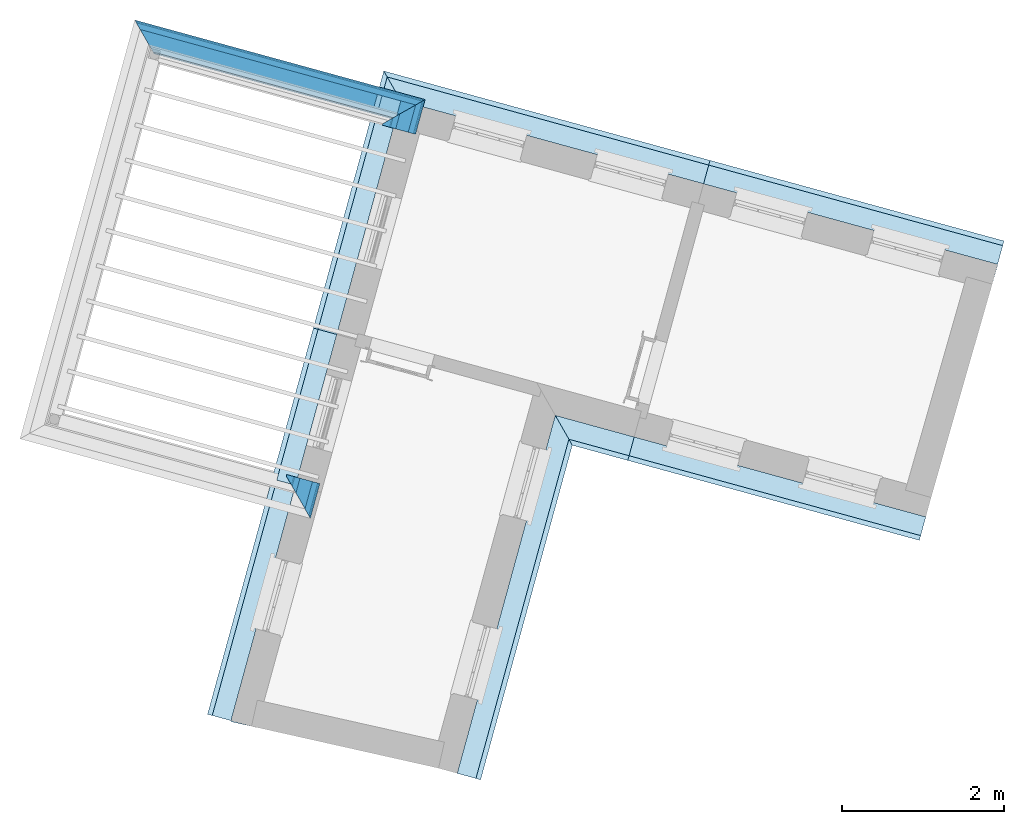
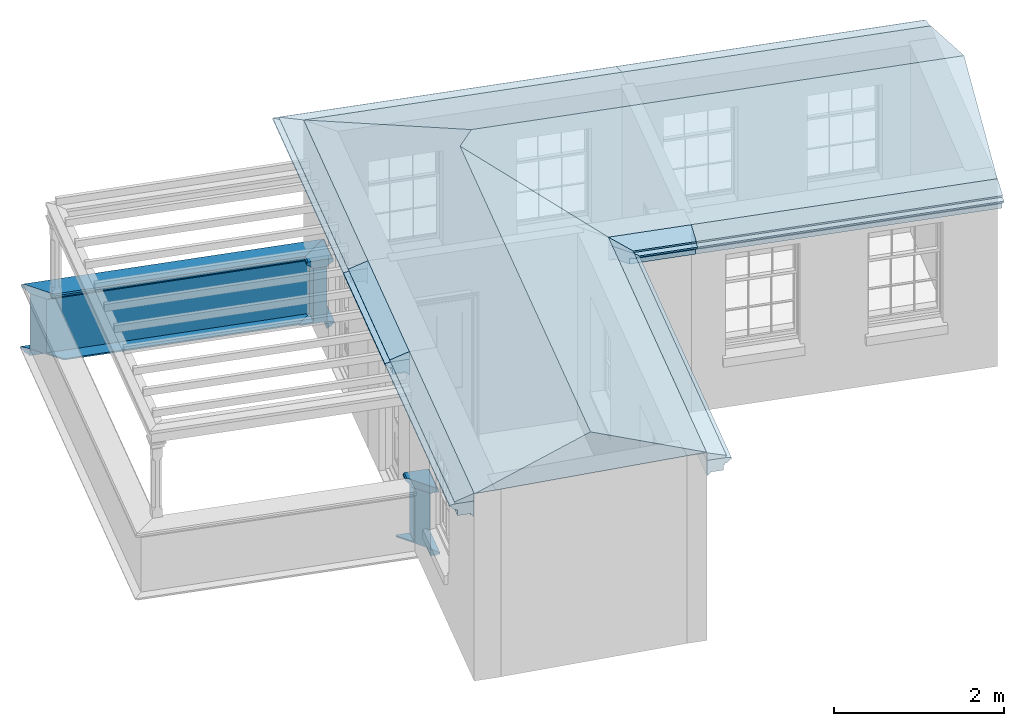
# One storey, part 5 of 5: 17 roofs, 9 walls.
"""IFC4 building model written with IfcOpenShell, lengths in metres."""

from ifc_helpers import new_model, si_unit, frame, origin, origin_with_axes, place, context, subcontext, project, spatial, polyline, outline, extrude, boolean, clip, halfspace, faceted_brep, material_profile, profile_set, profile_usage, type_object, element, save


model = new_model("IFC4")

# Units and contexts
model_context = context("Model", 3, world=origin_with_axes())
body_context = subcontext(model_context, "Body", "Model", "MODEL_VIEW")
ifc_project = project(units=[si_unit("PLANEANGLEUNIT", "RADIAN"), si_unit("MASSUNIT", "GRAM", prefix="KILO"), si_unit("FORCEUNIT", "NEWTON", prefix="KILO"), si_unit("LENGTHUNIT", "METRE"), si_unit("AREAUNIT", "SQUARE_METRE"), si_unit("VOLUMEUNIT", "CUBIC_METRE")], contexts=[model_context, model_context])

# Sites, building, storey
site_1_placement = place(None, origin_with_axes())
site_1 = spatial("IfcSite", under=ifc_project, at=site_1_placement, Name="Tamar")
site_2_placement = place(site_1_placement, origin_with_axes())
site_2 = spatial("IfcSite", under=site_1, at=site_2_placement, Name="Site plot-29", CompositionType="ELEMENT")
building_placement = place(None, origin_with_axes())
building = spatial("IfcBuilding", under=site_2, at=building_placement, Name="Building plot-29", CompositionType="ELEMENT")
storey_placement = place(None, frame((0.0, 0.0, 30.55), z_axis=(0.0, 0.0, 1.0), x_axis=(1.0, 0.0, 0.0)))
storey = spatial("IfcBuildingStorey", under=building, at=storey_placement, Name="plot-29 2", CompositionType="ELEMENT", Elevation=30.55)

# Walls
ifc_material_profile_1 = material_profile(None, outline(polyline([(0.25, 0.0), (0.25, 0.795), (0.09, 0.795), (0.09, 0.02), (-0.08, 0.02), (-0.08, 0.0), (0.25, 0.0)])))
ifc_profile_set_1 = profile_set([ifc_material_profile_1])
ifc_profile_usage_1 = profile_usage(ifc_profile_set_1)
wall_type_1 = type_object("IfcWallType", Name="parapet_0", PredefinedType="PARAPET", material=ifc_profile_set_1)
wall_1_placement = place(storey_placement, frame((274.250600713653, 266.220060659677, 0.0), z_axis=(-0.264255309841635, -0.964452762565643, 0.0), x_axis=(0.964452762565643, -0.264255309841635, 0.0)))
element("IfcWall", 1, at=wall_1_placement, inside=storey, type_object=wall_type_1, material=ifc_profile_usage_1, Name="parapet_0", context=body_context, shape_type="Clipping", body=[
    clip(clip(extrude(outline(polyline([(0.25, 0.0), (0.25, 0.795), (0.09, 0.795), (0.09, 0.02), (-0.08, 0.02), (-0.08, 0.0), (0.25, 0.0)])), origin_with_axes(), (0.0, 0.0, 1.0), 2.10000000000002), halfspace(frame((0.0, 0.0, 1.10000000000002), z_axis=(5.26783817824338e-15, 0.0, -1.0), x_axis=(0.0, 1.0, 0.0)), True)), halfspace(frame((0.0, 0.0, 1.0), z_axis=(-0.707106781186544, 0.0, -0.707106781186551), x_axis=(0.0, 1.0, 0.0)), False)),
])
ifc_profile_usage_2 = profile_usage(ifc_profile_set_1)
wall_2_placement = place(storey_placement, frame((270.103851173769, 266.319392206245, 0.0), z_axis=(0.96445276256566, -0.264255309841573, 0.0), x_axis=(0.264255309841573, 0.96445276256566, 0.0)))
element("IfcWall", 2, at=wall_2_placement, inside=storey, type_object=wall_type_1, material=ifc_profile_usage_2, Name="parapet_0", context=body_context, shape_type="Clipping", body=[
    clip(clip(extrude(outline(polyline([(0.25, 0.0), (0.25, 0.795), (0.09, 0.795), (0.09, 0.02), (-0.08, 0.02), (-0.08, 0.0), (0.25, 0.0)])), origin_with_axes(), (0.0, 0.0, 1.0), 5.02559293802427), halfspace(frame((0.0, 0.0, 4.02559293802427), z_axis=(0.707106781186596, 0.0, -0.707106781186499), x_axis=(0.0, 1.0, 0.0)), True)), halfspace(frame((0.0, 0.0, 1.0), z_axis=(-0.707106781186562, 0.0, -0.707106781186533), x_axis=(0.0, 1.0, 0.0)), False)),
])
ifc_profile_usage_3 = profile_usage(ifc_profile_set_1)
wall_3_placement = place(storey_placement, frame((273.04320591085, 261.813431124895, 0.0), z_axis=(-0.264255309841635, -0.964452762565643, 0.0), x_axis=(0.964452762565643, -0.264255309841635, 0.0)))
element("IfcWall", 3, at=wall_3_placement, inside=storey, type_object=wall_type_1, material=ifc_profile_usage_3, Name="parapet_0", context=body_context, shape_type="Clipping", body=[
    clip(clip(extrude(outline(polyline([(0.25, 0.0), (0.25, 0.795), (0.09, 0.795), (0.09, 0.02), (-0.08, 0.02), (-0.08, 0.0), (0.25, 0.0)])), origin_with_axes(), (0.0, 0.0, 1.0), 2.10000000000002), halfspace(frame((0.0, 0.0, 1.10000000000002), z_axis=(0.707106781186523, 0.0, -0.707106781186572), x_axis=(0.0, 1.0, 0.0)), True)), halfspace(frame((0.0, 0.0, 1.0), z_axis=(5.26783817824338e-15, 0.0, -1.0), x_axis=(0.0, 1.0, 0.0)), False)),
])
ifc_material_profile_2 = material_profile(None, outline(polyline([(0.265, 0.795), (0.268, 0.807), (0.274, 0.816), (0.283, 0.822), (0.295, 0.825), (0.295, 0.84), (0.305, 0.84), (0.317, 0.842), (0.326, 0.849), (0.333, 0.858), (0.335, 0.87), (0.333, 0.882), (0.326, 0.891), (0.317, 0.898), (0.305, 0.9), (0.035, 0.9), (0.023, 0.898), (0.014, 0.891), (0.007, 0.882), (0.005, 0.87), (0.007, 0.858), (0.014, 0.849), (0.023, 0.842), (0.035, 0.84), (0.045, 0.84), (0.045, 0.825), (0.057, 0.822), (0.066, 0.816), (0.072, 0.807), (0.075, 0.795), (0.265, 0.795)])))
ifc_profile_set_2 = profile_set([ifc_material_profile_2])
ifc_profile_usage_4 = profile_usage(ifc_profile_set_2)
wall_type_2 = type_object("IfcWallType", Name="parapet_1", PredefinedType="PARAPET", material=ifc_profile_set_2)
wall_4_placement = place(storey_placement, frame((274.250600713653, 266.220060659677, 0.0), z_axis=(-0.264255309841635, -0.964452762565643, 0.0), x_axis=(0.964452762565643, -0.264255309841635, 0.0)))
element("IfcWall", 4, at=wall_4_placement, inside=storey, type_object=wall_type_2, material=ifc_profile_usage_4, Name="parapet_1", context=body_context, shape_type="Clipping", body=[
    clip(clip(extrude(outline(polyline([(0.265, 0.795), (0.268, 0.807), (0.274, 0.816), (0.283, 0.822), (0.295, 0.825), (0.295, 0.84), (0.305, 0.84), (0.317, 0.842), (0.326, 0.849), (0.333, 0.858), (0.335, 0.87), (0.333, 0.882), (0.326, 0.891), (0.317, 0.898), (0.305, 0.9), (0.035, 0.9), (0.023, 0.898), (0.014, 0.891), (0.007, 0.882), (0.005, 0.87), (0.007, 0.858), (0.014, 0.849), (0.023, 0.842), (0.035, 0.84), (0.045, 0.84), (0.045, 0.825), (0.057, 0.822), (0.066, 0.816), (0.072, 0.807), (0.075, 0.795), (0.265, 0.795)])), origin_with_axes(), (0.0, 0.0, 1.0), 2.10000000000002), halfspace(frame((0.0, 0.0, 1.10000000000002), z_axis=(5.26783817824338e-15, 0.0, -1.0), x_axis=(0.0, 1.0, 0.0)), True)), halfspace(frame((0.0, 0.0, 1.0), z_axis=(-0.707106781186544, 0.0, -0.707106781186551), x_axis=(0.0, 1.0, 0.0)), False)),
])
ifc_profile_usage_5 = profile_usage(ifc_profile_set_2)
wall_5_placement = place(storey_placement, frame((270.103851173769, 266.319392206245, 0.0), z_axis=(0.96445276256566, -0.264255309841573, 0.0), x_axis=(0.264255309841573, 0.96445276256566, 0.0)))
element("IfcWall", 5, at=wall_5_placement, inside=storey, type_object=wall_type_2, material=ifc_profile_usage_5, Name="parapet_1", context=body_context, shape_type="Clipping", body=[
    clip(clip(extrude(outline(polyline([(0.265, 0.795), (0.268, 0.807), (0.274, 0.816), (0.283, 0.822), (0.295, 0.825), (0.295, 0.84), (0.305, 0.84), (0.317, 0.842), (0.326, 0.849), (0.333, 0.858), (0.335, 0.87), (0.333, 0.882), (0.326, 0.891), (0.317, 0.898), (0.305, 0.9), (0.035, 0.9), (0.023, 0.898), (0.014, 0.891), (0.007, 0.882), (0.005, 0.87), (0.007, 0.858), (0.014, 0.849), (0.023, 0.842), (0.035, 0.84), (0.045, 0.84), (0.045, 0.825), (0.057, 0.822), (0.066, 0.816), (0.072, 0.807), (0.075, 0.795), (0.265, 0.795)])), origin_with_axes(), (0.0, 0.0, 1.0), 5.02559293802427), halfspace(frame((0.0, 0.0, 4.02559293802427), z_axis=(0.707106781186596, 0.0, -0.707106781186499), x_axis=(0.0, 1.0, 0.0)), True)), halfspace(frame((0.0, 0.0, 1.0), z_axis=(-0.707106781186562, 0.0, -0.707106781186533), x_axis=(0.0, 1.0, 0.0)), False)),
])
ifc_profile_usage_6 = profile_usage(ifc_profile_set_2)
wall_6_placement = place(storey_placement, frame((273.04320591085, 261.813431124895, 0.0), z_axis=(-0.264255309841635, -0.964452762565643, 0.0), x_axis=(0.964452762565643, -0.264255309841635, 0.0)))
element("IfcWall", 6, at=wall_6_placement, inside=storey, type_object=wall_type_2, material=ifc_profile_usage_6, Name="parapet_1", context=body_context, shape_type="Clipping", body=[
    clip(clip(extrude(outline(polyline([(0.265, 0.795), (0.268, 0.807), (0.274, 0.816), (0.283, 0.822), (0.295, 0.825), (0.295, 0.84), (0.305, 0.84), (0.317, 0.842), (0.326, 0.849), (0.333, 0.858), (0.335, 0.87), (0.333, 0.882), (0.326, 0.891), (0.317, 0.898), (0.305, 0.9), (0.035, 0.9), (0.023, 0.898), (0.014, 0.891), (0.007, 0.882), (0.005, 0.87), (0.007, 0.858), (0.014, 0.849), (0.023, 0.842), (0.035, 0.84), (0.045, 0.84), (0.045, 0.825), (0.057, 0.822), (0.066, 0.816), (0.072, 0.807), (0.075, 0.795), (0.265, 0.795)])), origin_with_axes(), (0.0, 0.0, 1.0), 2.10000000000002), halfspace(frame((0.0, 0.0, 1.10000000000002), z_axis=(0.707106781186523, 0.0, -0.707106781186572), x_axis=(0.0, 1.0, 0.0)), True)), halfspace(frame((0.0, 0.0, 1.0), z_axis=(5.26783817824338e-15, 0.0, -1.0), x_axis=(0.0, 1.0, 0.0)), False)),
])
ifc_material_profile_3 = material_profile(None, outline(polyline([(0.25, -0.1), (0.265, -0.1), (0.265, -0.085), (0.278, -0.084), (0.289, -0.081), (0.301, -0.074), (0.309, -0.065), (0.315, -0.055), (0.324, -0.044), (0.334, -0.038), (0.345, -0.035), (0.345, -0.015), (0.25, 0.0), (0.25, -0.1)])))
ifc_profile_set_3 = profile_set([ifc_material_profile_3])
ifc_profile_usage_7 = profile_usage(ifc_profile_set_3)
wall_type_3 = type_object("IfcWallType", Name="parapet_2", PredefinedType="PARAPET", material=ifc_profile_set_3)
wall_7_placement = place(storey_placement, frame((274.250600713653, 266.220060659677, 0.0), z_axis=(-0.264255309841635, -0.964452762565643, 0.0), x_axis=(0.964452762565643, -0.264255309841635, 0.0)))
element("IfcWall", 7, at=wall_7_placement, inside=storey, type_object=wall_type_3, material=ifc_profile_usage_7, Name="parapet_2", context=body_context, shape_type="Clipping", body=[
    clip(clip(extrude(outline(polyline([(0.25, -0.1), (0.265, -0.1), (0.265, -0.085), (0.278, -0.084), (0.289, -0.081), (0.301, -0.074), (0.309, -0.065), (0.315, -0.055), (0.324, -0.044), (0.334, -0.038), (0.345, -0.035), (0.345, -0.015), (0.25, 0.0), (0.25, -0.1)])), origin_with_axes(), (0.0, 0.0, 1.0), 2.10000000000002), halfspace(frame((0.0, 0.0, 1.10000000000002), z_axis=(5.26783817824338e-15, 0.0, -1.0), x_axis=(0.0, 1.0, 0.0)), True)), halfspace(frame((0.0, 0.0, 1.0), z_axis=(-0.707106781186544, 0.0, -0.707106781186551), x_axis=(0.0, 1.0, 0.0)), False)),
])
ifc_profile_usage_8 = profile_usage(ifc_profile_set_3)
wall_8_placement = place(storey_placement, frame((270.103851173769, 266.319392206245, 0.0), z_axis=(0.96445276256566, -0.264255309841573, 0.0), x_axis=(0.264255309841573, 0.96445276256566, 0.0)))
element("IfcWall", 8, at=wall_8_placement, inside=storey, type_object=wall_type_3, material=ifc_profile_usage_8, Name="parapet_2", context=body_context, shape_type="Clipping", body=[
    clip(clip(extrude(outline(polyline([(0.25, -0.1), (0.265, -0.1), (0.265, -0.085), (0.278, -0.084), (0.289, -0.081), (0.301, -0.074), (0.309, -0.065), (0.315, -0.055), (0.324, -0.044), (0.334, -0.038), (0.345, -0.035), (0.345, -0.015), (0.25, 0.0), (0.25, -0.1)])), origin_with_axes(), (0.0, 0.0, 1.0), 5.02559293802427), halfspace(frame((0.0, 0.0, 4.02559293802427), z_axis=(0.707106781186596, 0.0, -0.707106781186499), x_axis=(0.0, 1.0, 0.0)), True)), halfspace(frame((0.0, 0.0, 1.0), z_axis=(-0.707106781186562, 0.0, -0.707106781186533), x_axis=(0.0, 1.0, 0.0)), False)),
])
ifc_profile_usage_9 = profile_usage(ifc_profile_set_3)
wall_9_placement = place(storey_placement, frame((273.04320591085, 261.813431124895, 0.0), z_axis=(-0.264255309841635, -0.964452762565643, 0.0), x_axis=(0.964452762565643, -0.264255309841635, 0.0)))
element("IfcWall", 9, at=wall_9_placement, inside=storey, type_object=wall_type_3, material=ifc_profile_usage_9, Name="parapet_2", context=body_context, shape_type="Clipping", body=[
    clip(clip(extrude(outline(polyline([(0.25, -0.1), (0.265, -0.1), (0.265, -0.085), (0.278, -0.084), (0.289, -0.081), (0.301, -0.074), (0.309, -0.065), (0.315, -0.055), (0.324, -0.044), (0.334, -0.038), (0.345, -0.035), (0.345, -0.015), (0.25, 0.0), (0.25, -0.1)])), origin_with_axes(), (0.0, 0.0, 1.0), 2.10000000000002), halfspace(frame((0.0, 0.0, 1.10000000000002), z_axis=(0.707106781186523, 0.0, -0.707106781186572), x_axis=(0.0, 1.0, 0.0)), True)), halfspace(frame((0.0, 0.0, 1.0), z_axis=(5.26783817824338e-15, 0.0, -1.0), x_axis=(0.0, 1.0, 0.0)), False)),
])

# Roofs
ifc_material_profile_4 = material_profile(None, outline(polyline([(0.25, -0.11), (0.25, -0.33), (0.265, -0.33), (0.268, -0.318), (0.274, -0.309), (0.283, -0.303), (0.295, -0.3), (0.295, -0.285), (0.455, -0.285), (0.455, -0.205), (0.47, -0.205), (0.47, -0.19), (0.483, -0.189), (0.494, -0.186), (0.506, -0.179), (0.514, -0.17), (0.52, -0.16), (0.529, -0.149), (0.539, -0.143), (0.55, -0.14), (0.55, -0.12), (0.48, -0.11), (0.25, -0.11)])))
ifc_profile_set_4 = profile_set([ifc_material_profile_4])
ifc_profile_usage_10 = profile_usage(ifc_profile_set_4)
roof_type_1 = type_object("IfcRoofType", Name="eaves_0", PredefinedType="FREEFORM", material=ifc_profile_set_4)
roof_1_placement = place(storey_placement, frame((276.105436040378, 262.871782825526, 2.7), z_axis=(-0.264255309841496, -0.964452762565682, 0.0), x_axis=(0.964452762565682, -0.264255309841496, 0.0)))
element("IfcRoof", 10, at=roof_1_placement, inside=storey, type_object=roof_type_1, material=ifc_profile_usage_10, Name="eaves_0", context=body_context, shape_type="Clipping", body=[
    clip(clip(extrude(outline(polyline([(0.25, -0.11), (0.25, -0.33), (0.265, -0.33), (0.268, -0.318), (0.274, -0.309), (0.283, -0.303), (0.295, -0.3), (0.295, -0.285), (0.455, -0.285), (0.455, -0.205), (0.47, -0.205), (0.47, -0.19), (0.483, -0.189), (0.494, -0.186), (0.506, -0.179), (0.514, -0.17), (0.52, -0.16), (0.529, -0.149), (0.539, -0.143), (0.55, -0.14), (0.55, -0.12), (0.48, -0.11), (0.25, -0.11)])), origin_with_axes(), (0.0, 0.0, 1.0), 6.83079801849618), halfspace(frame((0.0, 0.0, 5.83079801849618), z_axis=(-1.51602654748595e-14, 0.0, -1.0), x_axis=(0.0, 1.0, 0.0)), True)), halfspace(frame((0.0, 0.0, 1.0), z_axis=(0.707106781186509, 0.0, -0.707106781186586), x_axis=(0.0, 1.0, 0.0)), False)),
])
ifc_profile_usage_11 = profile_usage(ifc_profile_set_4)
roof_2_placement = place(storey_placement, frame((278.02095420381, 261.310082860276, 2.7), z_axis=(-0.964452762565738, 0.264255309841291, 0.0), x_axis=(-0.264255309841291, -0.964452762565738, 0.0)))
element("IfcRoof", 11, at=roof_2_placement, inside=storey, type_object=roof_type_1, material=ifc_profile_usage_11, Name="eaves_0", context=body_context, shape_type="Clipping", body=[
    clip(clip(extrude(outline(polyline([(0.25, -0.11), (0.25, -0.33), (0.265, -0.33), (0.268, -0.318), (0.274, -0.309), (0.283, -0.303), (0.295, -0.3), (0.295, -0.285), (0.455, -0.285), (0.455, -0.205), (0.47, -0.205), (0.47, -0.19), (0.483, -0.189), (0.494, -0.186), (0.506, -0.179), (0.514, -0.17), (0.52, -0.16), (0.529, -0.149), (0.539, -0.143), (0.55, -0.14), (0.55, -0.12), (0.48, -0.11), (0.25, -0.11)])), origin_with_axes(), (0.0, 0.0, 1.0), 3.26011429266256), halfspace(frame((0.0, 0.0, 2.26011429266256), z_axis=(-0.707106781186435, 0.0, -0.707106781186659), x_axis=(0.0, 1.0, 0.0)), True)), halfspace(frame((0.0, 0.0, 1.0), z_axis=(1.83684698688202e-14, 0.0, -1.0), x_axis=(0.0, 1.0, 0.0)), False)),
])
ifc_profile_usage_12 = profile_usage(ifc_profile_set_4)
roof_3_placement = place(storey_placement, frame((281.619423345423, 260.32412002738, 2.7), z_axis=(-0.964452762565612, 0.264255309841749, 0.0), x_axis=(-0.264255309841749, -0.964452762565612, 0.0)))
element("IfcRoof", 12, at=roof_3_placement, inside=storey, type_object=roof_type_1, material=ifc_profile_usage_12, Name="eaves_0", context=body_context, shape_type="Clipping", body=[
    clip(clip(extrude(outline(polyline([(0.25, -0.11), (0.25, -0.33), (0.265, -0.33), (0.268, -0.318), (0.274, -0.309), (0.283, -0.303), (0.295, -0.3), (0.295, -0.285), (0.455, -0.285), (0.455, -0.205), (0.47, -0.205), (0.47, -0.19), (0.483, -0.189), (0.494, -0.186), (0.506, -0.179), (0.514, -0.17), (0.52, -0.16), (0.529, -0.149), (0.539, -0.143), (0.55, -0.14), (0.55, -0.12), (0.48, -0.11), (0.25, -0.11)])), origin_with_axes(), (0.0, 0.0, 1.0), 5.73109941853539), halfspace(frame((0.0, 0.0, 4.73109941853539), z_axis=(-4.57029029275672e-13, 0.0, -1.0), x_axis=(0.0, 1.0, 0.0)), True)), halfspace(frame((0.0, 0.0, 1.0), z_axis=(1.19291763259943e-14, 0.0, -1.0), x_axis=(0.0, 1.0, 0.0)), False)),
])
ifc_material_profile_5 = material_profile(None, outline(polyline([(0.25, -0.11), (0.48, -0.11), (0.49, -0.08), (0.25, 0.0), (0.25, -0.11)])))
ifc_profile_set_5 = profile_set([ifc_material_profile_5])
ifc_profile_usage_13 = profile_usage(ifc_profile_set_5)
roof_type_2 = type_object("IfcRoofType", Name="eaves_1", PredefinedType="FREEFORM", material=ifc_profile_set_5)
roof_4_placement = place(storey_placement, frame((276.105436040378, 262.871782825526, 2.7), z_axis=(-0.264255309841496, -0.964452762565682, 0.0), x_axis=(0.964452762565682, -0.264255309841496, 0.0)))
element("IfcRoof", 13, at=roof_4_placement, inside=storey, type_object=roof_type_2, material=ifc_profile_usage_13, Name="eaves_1", context=body_context, shape_type="Clipping", body=[
    clip(clip(extrude(outline(polyline([(0.25, -0.11), (0.48, -0.11), (0.49, -0.08), (0.25, 0.0), (0.25, -0.11)])), origin_with_axes(), (0.0, 0.0, 1.0), 6.83079801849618), halfspace(frame((0.0, 0.0, 5.83079801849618), z_axis=(-1.51602654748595e-14, 0.0, -1.0), x_axis=(0.0, 1.0, 0.0)), True)), halfspace(frame((0.0, 0.0, 1.0), z_axis=(0.707106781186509, 0.0, -0.707106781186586), x_axis=(0.0, 1.0, 0.0)), False)),
])
ifc_profile_usage_14 = profile_usage(ifc_profile_set_5)
roof_5_placement = place(storey_placement, frame((278.02095420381, 261.310082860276, 2.7), z_axis=(-0.964452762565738, 0.264255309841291, 0.0), x_axis=(-0.264255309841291, -0.964452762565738, 0.0)))
element("IfcRoof", 14, at=roof_5_placement, inside=storey, type_object=roof_type_2, material=ifc_profile_usage_14, Name="eaves_1", context=body_context, shape_type="Clipping", body=[
    clip(clip(extrude(outline(polyline([(0.25, -0.11), (0.48, -0.11), (0.49, -0.08), (0.25, 0.0), (0.25, -0.11)])), origin_with_axes(), (0.0, 0.0, 1.0), 3.26011429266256), halfspace(frame((0.0, 0.0, 2.26011429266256), z_axis=(-0.707106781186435, 0.0, -0.707106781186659), x_axis=(0.0, 1.0, 0.0)), True)), halfspace(frame((0.0, 0.0, 1.0), z_axis=(1.83684698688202e-14, 0.0, -1.0), x_axis=(0.0, 1.0, 0.0)), False)),
])
ifc_profile_usage_15 = profile_usage(ifc_profile_set_5)
roof_6_placement = place(storey_placement, frame((281.619423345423, 260.32412002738, 2.7), z_axis=(-0.964452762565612, 0.264255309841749, 0.0), x_axis=(-0.264255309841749, -0.964452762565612, 0.0)))
element("IfcRoof", 15, at=roof_6_placement, inside=storey, type_object=roof_type_2, material=ifc_profile_usage_15, Name="eaves_1", context=body_context, shape_type="Clipping", body=[
    clip(clip(extrude(outline(polyline([(0.25, -0.11), (0.48, -0.11), (0.49, -0.08), (0.25, 0.0), (0.25, -0.11)])), origin_with_axes(), (0.0, 0.0, 1.0), 5.73109941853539), halfspace(frame((0.0, 0.0, 4.73109941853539), z_axis=(-4.57029029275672e-13, 0.0, -1.0), x_axis=(0.0, 1.0, 0.0)), True)), halfspace(frame((0.0, 0.0, 1.0), z_axis=(1.19291763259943e-14, 0.0, -1.0), x_axis=(0.0, 1.0, 0.0)), False)),
])
ifc_material_profile_6 = material_profile(None, outline(polyline([(0.25, -0.11), (0.25, -0.33), (0.265, -0.33), (0.268, -0.318), (0.274, -0.309), (0.283, -0.303), (0.295, -0.3), (0.295, -0.285), (0.455, -0.285), (0.455, -0.205), (0.47, -0.205), (0.47, -0.19), (0.483, -0.189), (0.494, -0.186), (0.506, -0.179), (0.514, -0.17), (0.52, -0.16), (0.529, -0.149), (0.539, -0.143), (0.55, -0.14), (0.55, -0.12), (0.48, -0.11), (0.25, -0.11)])))
ifc_profile_set_6 = profile_set([ifc_material_profile_6])
ifc_profile_usage_16 = profile_usage(ifc_profile_set_6)
roof_type_3 = type_object("IfcRoofType", Name="eaves_0", PredefinedType="FREEFORM", material=ifc_profile_set_6)
roof_7_placement = place(storey_placement, frame((276.815871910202, 264.48033156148, 2.7), z_axis=(0.964452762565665, -0.264255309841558, 0.0), x_axis=(0.264255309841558, 0.964452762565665, 0.0)))
element("IfcRoof", 16, at=roof_7_placement, inside=storey, type_object=roof_type_3, material=ifc_profile_usage_16, Name="eaves_0", context=body_context, shape_type="Clipping", body=[
    clip(clip(extrude(outline(polyline([(0.25, -0.11), (0.25, -0.33), (0.265, -0.33), (0.268, -0.318), (0.274, -0.309), (0.283, -0.303), (0.295, -0.3), (0.295, -0.285), (0.455, -0.285), (0.455, -0.205), (0.47, -0.205), (0.47, -0.19), (0.483, -0.189), (0.494, -0.186), (0.506, -0.179), (0.514, -0.17), (0.52, -0.16), (0.529, -0.149), (0.539, -0.143), (0.55, -0.14), (0.55, -0.12), (0.48, -0.11), (0.25, -0.11)])), origin_with_axes(), (0.0, 0.0, 1.0), 5.76193624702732), halfspace(frame((0.0, 0.0, 4.76193624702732), z_axis=(-2.49302280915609e-14, 0.0, -1.0), x_axis=(0.0, 1.0, 0.0)), True)), halfspace(frame((0.0, 0.0, 1.0), z_axis=(-2.49302280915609e-14, 0.0, -1.0), x_axis=(0.0, 1.0, 0.0)), False)),
])
ifc_profile_usage_17 = profile_usage(ifc_profile_set_6)
roof_8_placement = place(storey_placement, frame((273.320872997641, 265.437944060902, 2.7), z_axis=(0.964452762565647, -0.264255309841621, 0.0), x_axis=(0.264255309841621, 0.964452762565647, 0.0)))
element("IfcRoof", 17, at=roof_8_placement, inside=storey, type_object=roof_type_3, material=ifc_profile_usage_17, Name="eaves_0", context=body_context, shape_type="Clipping", body=[
    clip(clip(extrude(outline(polyline([(0.25, -0.11), (0.25, -0.33), (0.265, -0.33), (0.268, -0.318), (0.274, -0.309), (0.283, -0.303), (0.295, -0.3), (0.295, -0.285), (0.455, -0.285), (0.455, -0.205), (0.47, -0.205), (0.47, -0.19), (0.483, -0.189), (0.494, -0.186), (0.506, -0.179), (0.514, -0.17), (0.52, -0.16), (0.529, -0.149), (0.539, -0.143), (0.55, -0.14), (0.55, -0.12), (0.48, -0.11), (0.25, -0.11)])), origin_with_axes(), (0.0, 0.0, 1.0), 5.62381554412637), halfspace(frame((0.0, 0.0, 4.62381554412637), z_axis=(-8.976725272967e-14, 0.0, -1.0), x_axis=(0.0, 1.0, 0.0)), True)), halfspace(frame((0.0, 0.0, 1.0), z_axis=(-0.707106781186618, 0.0, -0.707106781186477), x_axis=(0.0, 1.0, 0.0)), False)),
])
ifc_profile_usage_18 = profile_usage(ifc_profile_set_6)
roof_9_placement = place(storey_placement, frame((273.297247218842, 261.567497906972, 2.7), z_axis=(0.264255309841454, 0.964452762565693, 0.0), x_axis=(-0.964452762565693, 0.264255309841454, 0.0)))
element("IfcRoof", 18, at=roof_9_placement, inside=storey, type_object=roof_type_3, material=ifc_profile_usage_18, Name="eaves_0", context=body_context, shape_type="Clipping", body=[
    clip(clip(extrude(outline(polyline([(0.25, -0.11), (0.25, -0.33), (0.265, -0.33), (0.268, -0.318), (0.274, -0.309), (0.283, -0.303), (0.295, -0.3), (0.295, -0.285), (0.455, -0.285), (0.455, -0.205), (0.47, -0.205), (0.47, -0.19), (0.483, -0.189), (0.494, -0.186), (0.506, -0.179), (0.514, -0.17), (0.52, -0.16), (0.529, -0.149), (0.539, -0.143), (0.55, -0.14), (0.55, -0.12), (0.48, -0.11), (0.25, -0.11)])), origin_with_axes(), (0.0, 0.0, 1.0), 4.73910572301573), halfspace(frame((0.0, 0.0, 3.73910572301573), z_axis=(0.707106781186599, 0.0, -0.707106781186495), x_axis=(0.0, 1.0, 0.0)), True)), halfspace(frame((0.0, 0.0, 1.0), z_axis=(1.41496223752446e-14, 0.0, -1.0), x_axis=(0.0, 1.0, 0.0)), False)),
])
ifc_profile_usage_19 = profile_usage(ifc_profile_set_6)
roof_10_placement = place(storey_placement, frame((272.787250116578, 259.706161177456, 2.7), z_axis=(0.264255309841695, 0.964452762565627, 0.0), x_axis=(-0.964452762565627, 0.264255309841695, 0.0)))
element("IfcRoof", 19, at=roof_10_placement, inside=storey, type_object=roof_type_3, material=ifc_profile_usage_19, Name="eaves_0", context=body_context, shape_type="Clipping", body=[
    clip(clip(extrude(outline(polyline([(0.25, -0.11), (0.25, -0.33), (0.265, -0.33), (0.268, -0.318), (0.274, -0.309), (0.283, -0.303), (0.295, -0.3), (0.295, -0.285), (0.455, -0.285), (0.455, -0.205), (0.47, -0.205), (0.47, -0.19), (0.483, -0.189), (0.494, -0.186), (0.506, -0.179), (0.514, -0.17), (0.52, -0.16), (0.529, -0.149), (0.539, -0.143), (0.55, -0.14), (0.55, -0.12), (0.48, -0.11), (0.25, -0.11)])), origin_with_axes(), (0.0, 0.0, 1.0), 3.92994079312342), halfspace(frame((0.0, 0.0, 2.92994079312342), z_axis=(-2.36316691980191e-13, 0.0, -1.0), x_axis=(0.0, 1.0, 0.0)), True)), halfspace(frame((0.0, 0.0, 1.0), z_axis=(1.23732655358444e-14, 0.0, -1.0), x_axis=(0.0, 1.0, 0.0)), False)),
])
ifc_profile_usage_20 = profile_usage(ifc_profile_set_6)
roof_11_placement = place(storey_placement, frame((271.991435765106, 256.801677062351, 2.7), z_axis=(0.264255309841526, 0.964452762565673, 0.0), x_axis=(-0.964452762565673, 0.264255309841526, 0.0)))
element("IfcRoof", 20, at=roof_11_placement, inside=storey, type_object=roof_type_3, material=ifc_profile_usage_20, Name="eaves_0", context=body_context, shape_type="Clipping", body=[
    clip(clip(extrude(outline(polyline([(0.25, -0.11), (0.25, -0.33), (0.265, -0.33), (0.268, -0.318), (0.274, -0.309), (0.283, -0.303), (0.295, -0.3), (0.295, -0.285), (0.455, -0.285), (0.455, -0.205), (0.47, -0.205), (0.47, -0.19), (0.483, -0.189), (0.494, -0.186), (0.506, -0.179), (0.514, -0.17), (0.52, -0.16), (0.529, -0.149), (0.539, -0.143), (0.55, -0.14), (0.55, -0.12), (0.48, -0.11), (0.25, -0.11)])), origin_with_axes(), (0.0, 0.0, 1.0), 5.01153589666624), halfspace(frame((0.0, 0.0, 4.01153589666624), z_axis=(1.88232592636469e-13, 0.0, -1.0), x_axis=(0.0, 1.0, 0.0)), True)), halfspace(frame((0.0, 0.0, 1.0), z_axis=(8.82055185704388e-15, 0.0, -1.0), x_axis=(0.0, 1.0, 0.0)), False)),
])
ifc_material_profile_7 = material_profile(None, outline(polyline([(0.25, -0.11), (0.48, -0.11), (0.49, -0.08), (0.25, 0.0), (0.25, -0.11)])))
ifc_profile_set_7 = profile_set([ifc_material_profile_7])
ifc_profile_usage_21 = profile_usage(ifc_profile_set_7)
roof_type_4 = type_object("IfcRoofType", Name="eaves_1", PredefinedType="FREEFORM", material=ifc_profile_set_7)
roof_12_placement = place(storey_placement, frame((276.815871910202, 264.48033156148, 2.7), z_axis=(0.964452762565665, -0.264255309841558, 0.0), x_axis=(0.264255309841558, 0.964452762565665, 0.0)))
element("IfcRoof", 21, at=roof_12_placement, inside=storey, type_object=roof_type_4, material=ifc_profile_usage_21, Name="eaves_1", context=body_context, shape_type="Clipping", body=[
    clip(clip(extrude(outline(polyline([(0.25, -0.11), (0.48, -0.11), (0.49, -0.08), (0.25, 0.0), (0.25, -0.11)])), origin_with_axes(), (0.0, 0.0, 1.0), 5.76193624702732), halfspace(frame((0.0, 0.0, 4.76193624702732), z_axis=(-2.49302280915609e-14, 0.0, -1.0), x_axis=(0.0, 1.0, 0.0)), True)), halfspace(frame((0.0, 0.0, 1.0), z_axis=(-2.49302280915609e-14, 0.0, -1.0), x_axis=(0.0, 1.0, 0.0)), False)),
])
ifc_profile_usage_22 = profile_usage(ifc_profile_set_7)
roof_13_placement = place(storey_placement, frame((273.320872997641, 265.437944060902, 2.7), z_axis=(0.964452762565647, -0.264255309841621, 0.0), x_axis=(0.264255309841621, 0.964452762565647, 0.0)))
element("IfcRoof", 22, at=roof_13_placement, inside=storey, type_object=roof_type_4, material=ifc_profile_usage_22, Name="eaves_1", context=body_context, shape_type="Clipping", body=[
    clip(clip(extrude(outline(polyline([(0.25, -0.11), (0.48, -0.11), (0.49, -0.08), (0.25, 0.0), (0.25, -0.11)])), origin_with_axes(), (0.0, 0.0, 1.0), 5.62381554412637), halfspace(frame((0.0, 0.0, 4.62381554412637), z_axis=(-8.976725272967e-14, 0.0, -1.0), x_axis=(0.0, 1.0, 0.0)), True)), halfspace(frame((0.0, 0.0, 1.0), z_axis=(-0.707106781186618, 0.0, -0.707106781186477), x_axis=(0.0, 1.0, 0.0)), False)),
])
ifc_profile_usage_23 = profile_usage(ifc_profile_set_7)
roof_14_placement = place(storey_placement, frame((273.297247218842, 261.567497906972, 2.7), z_axis=(0.264255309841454, 0.964452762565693, 0.0), x_axis=(-0.964452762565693, 0.264255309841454, 0.0)))
element("IfcRoof", 23, at=roof_14_placement, inside=storey, type_object=roof_type_4, material=ifc_profile_usage_23, Name="eaves_1", context=body_context, shape_type="Clipping", body=[
    clip(clip(extrude(outline(polyline([(0.25, -0.11), (0.48, -0.11), (0.49, -0.08), (0.25, 0.0), (0.25, -0.11)])), origin_with_axes(), (0.0, 0.0, 1.0), 4.73910572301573), halfspace(frame((0.0, 0.0, 3.73910572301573), z_axis=(0.707106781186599, 0.0, -0.707106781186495), x_axis=(0.0, 1.0, 0.0)), True)), halfspace(frame((0.0, 0.0, 1.0), z_axis=(1.41496223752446e-14, 0.0, -1.0), x_axis=(0.0, 1.0, 0.0)), False)),
])
ifc_profile_usage_24 = profile_usage(ifc_profile_set_7)
roof_15_placement = place(storey_placement, frame((272.787250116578, 259.706161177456, 2.7), z_axis=(0.264255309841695, 0.964452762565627, 0.0), x_axis=(-0.964452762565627, 0.264255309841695, 0.0)))
element("IfcRoof", 24, at=roof_15_placement, inside=storey, type_object=roof_type_4, material=ifc_profile_usage_24, Name="eaves_1", context=body_context, shape_type="Clipping", body=[
    clip(clip(extrude(outline(polyline([(0.25, -0.11), (0.48, -0.11), (0.49, -0.08), (0.25, 0.0), (0.25, -0.11)])), origin_with_axes(), (0.0, 0.0, 1.0), 3.92994079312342), halfspace(frame((0.0, 0.0, 2.92994079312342), z_axis=(-2.36316691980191e-13, 0.0, -1.0), x_axis=(0.0, 1.0, 0.0)), True)), halfspace(frame((0.0, 0.0, 1.0), z_axis=(1.23732655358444e-14, 0.0, -1.0), x_axis=(0.0, 1.0, 0.0)), False)),
])
ifc_profile_usage_25 = profile_usage(ifc_profile_set_7)
roof_16_placement = place(storey_placement, frame((271.991435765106, 256.801677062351, 2.7), z_axis=(0.264255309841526, 0.964452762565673, 0.0), x_axis=(-0.964452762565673, 0.264255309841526, 0.0)))
element("IfcRoof", 25, at=roof_16_placement, inside=storey, type_object=roof_type_4, material=ifc_profile_usage_25, Name="eaves_1", context=body_context, shape_type="Clipping", body=[
    clip(clip(extrude(outline(polyline([(0.25, -0.11), (0.48, -0.11), (0.49, -0.08), (0.25, 0.0), (0.25, -0.11)])), origin_with_axes(), (0.0, 0.0, 1.0), 5.01153589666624), halfspace(frame((0.0, 0.0, 4.01153589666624), z_axis=(1.88232592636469e-13, 0.0, -1.0), x_axis=(0.0, 1.0, 0.0)), True)), halfspace(frame((0.0, 0.0, 1.0), z_axis=(8.82055185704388e-15, 0.0, -1.0), x_axis=(0.0, 1.0, 0.0)), False)),
])
roof_17_placement = place(building_placement, origin())
element("IfcRoof", 26, at=roof_17_placement, inside=storey, Name="Roof", PredefinedType="FREEFORM", context=body_context, shape_type="CSG", body=[
    boolean("UNION", faceted_brep([(273.254326, 262.356901, 33.25), (280.586208, 260.348002, 33.25), (281.031768, 261.905166, 33.920841), (275.244283, 263.490908, 33.920841), (281.477328, 263.46233, 33.25), (274.110276, 265.480866, 33.25)], [[[0, 1, 2, 3]], [[4, 5, 3, 2]], [[5, 4, 1, 0]], [[5, 0, 3]], [[1, 4, 2]]]), faceted_brep([(274.110276, 265.480866, 33.25), (272.011412, 257.82064, 33.25), (273.410082, 257.506928, 33.843092), (275.112855, 263.721539, 33.843092), (274.808751, 257.193216, 33.25), (276.872181, 264.724118, 33.25)], [[[0, 1, 2, 3]], [[4, 5, 3, 2]], [[5, 4, 1, 0]], [[5, 0, 3]], [[1, 4, 2]]])),
])

save(model, "model.ifc")
